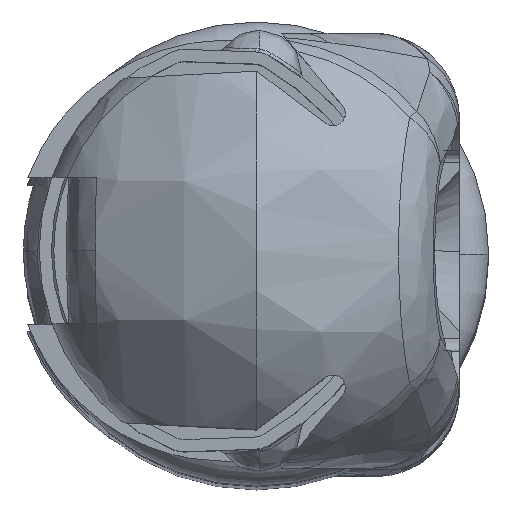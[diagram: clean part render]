
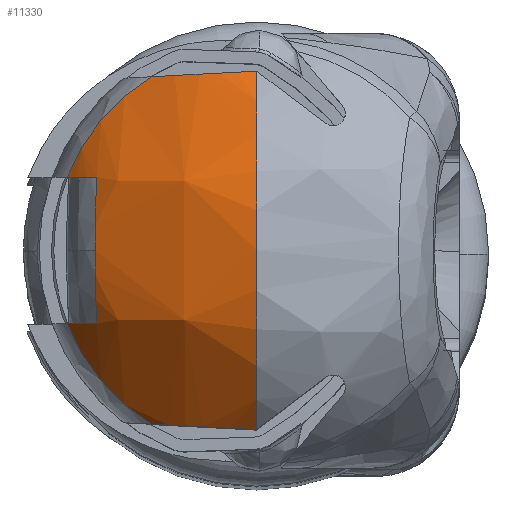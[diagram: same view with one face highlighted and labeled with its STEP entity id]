
A CAD part, top view. The second image highlights one B-rep face of the part: STEP entity #11330.
In plain terms, the highlighted free-form (B-spline) face has degree [3, 3] with [4, 4] control points.
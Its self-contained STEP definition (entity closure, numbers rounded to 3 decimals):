
#1652 = B_SPLINE_CURVE_WITH_KNOTS ( 'NONE', 3,
 ( #18228, #18227, #18226, #18225, #18224, #18223 ),
 .UNSPECIFIED., .F., .F.,
 ( 4, 2, 4 ),
 ( 0., 0.002, 0.005 ),
 .UNSPECIFIED. ) ;
#1653 = B_SPLINE_CURVE_WITH_KNOTS ( 'NONE', 3,
 ( #18219, #18218, #18217, #18216, #18215, #18214 ),
 .UNSPECIFIED., .F., .F.,
 ( 4, 2, 4 ),
 ( 0., 0.002, 0.005 ),
 .UNSPECIFIED. ) ;
#2259 = EDGE_LOOP ( 'NONE', ( #2601, #2603, #2602, #2605, #2604, #2606, #2607, #2608, #2609 ) ) ;
#2601 = ORIENTED_EDGE ( 'NONE', *, *, #11436, .F. ) ;
#2602 = ORIENTED_EDGE ( 'NONE', *, *, #3022, .T. ) ;
#2603 = ORIENTED_EDGE ( 'NONE', *, *, #3769, .F. ) ;
#2604 = ORIENTED_EDGE ( 'NONE', *, *, #3011, .T. ) ;
#2605 = ORIENTED_EDGE ( 'NONE', *, *, #3018, .T. ) ;
#2606 = ORIENTED_EDGE ( 'NONE', *, *, #11540, .T. ) ;
#2607 = ORIENTED_EDGE ( 'NONE', *, *, #3770, .F. ) ;
#2608 = ORIENTED_EDGE ( 'NONE', *, *, #10707, .F. ) ;
#2609 = ORIENTED_EDGE ( 'NONE', *, *, #3771, .F. ) ;
#3011 = EDGE_CURVE ( 'NONE', #5074, #5216, #12217, .T. ) ;
#3018 = EDGE_CURVE ( 'NONE', #5070, #5074, #12218, .T. ) ;
#3022 = EDGE_CURVE ( 'NONE', #5069, #5070, #12096, .T. ) ;
#3769 = EDGE_CURVE ( 'NONE', #5069, #5228, #1652, .T. ) ;
#3770 = EDGE_CURVE ( 'NONE', #5059, #5215, #12102, .T. ) ;
#3771 = EDGE_CURVE ( 'NONE', #5226, #5058, #1653, .T. ) ;
#5058 = VERTEX_POINT ( 'NONE', #16808 ) ;
#5059 = VERTEX_POINT ( 'NONE', #16807 ) ;
#5069 = VERTEX_POINT ( 'NONE', #16797 ) ;
#5070 = VERTEX_POINT ( 'NONE', #16796 ) ;
#5074 = VERTEX_POINT ( 'NONE', #16792 ) ;
#5215 = VERTEX_POINT ( 'NONE', #16651 ) ;
#5216 = VERTEX_POINT ( 'NONE', #16650 ) ;
#5226 = VERTEX_POINT ( 'NONE', #16640 ) ;
#5228 = VERTEX_POINT ( 'NONE', #16638 ) ;
#5900 =( BOUNDED_SURFACE ( )  B_SPLINE_SURFACE ( 3, 3, ( 
 ( #13845, #13846, #13847, #13850 ),
 ( #13851, #13852, #13854, #13855 ),
 ( #13856, #13858, #13857, #13863 ),
 ( #13767, #13752, #13749, #13751 ) ),
 .UNSPECIFIED., .F., .F., .F. ) 
 B_SPLINE_SURFACE_WITH_KNOTS ( ( 4, 4 ),
 ( 4, 4 ),
 ( 0., 1. ),
 ( 0., 1. ),
 .UNSPECIFIED. ) 
 GEOMETRIC_REPRESENTATION_ITEM ( )  RATIONAL_B_SPLINE_SURFACE ( (
 ( 1., 0.926, 0.926, 1.),
 ( 0.782, 0.724, 0.724, 0.782),
 ( 0.782, 0.724, 0.724, 0.782),
 ( 1., 0.926, 0.926, 1.) ) ) 
 REPRESENTATION_ITEM ( '' )  SURFACE ( )  );
#6169 = FACE_OUTER_BOUND ( 'NONE', #2259, .T. ) ;
#6457 = CIRCLE ( 'NONE', #6464, 8.157 ) ;
#6464 = AXIS2_PLACEMENT_3D ( 'NONE', #7341, #7342, #7343 ) ;
#7341 = CARTESIAN_POINT ( 'NONE',  ( -0.895, 0., 5.753 ) ) ;
#7342 = DIRECTION ( 'NONE',  ( -0.105, 0., -0.995 ) ) ;
#7343 = DIRECTION ( 'NONE',  ( -0.995, 0., 0.105 ) ) ;
#10707 = EDGE_CURVE ( 'NONE', #5058, #5059, #12636, .T. ) ;
#11330 = ADVANCED_FACE ( 'NONE', ( #6169 ), #5900, .T. ) ;
#11436 = EDGE_CURVE ( 'NONE', #5228, #5226, #18944, .T. ) ;
#11540 = EDGE_CURVE ( 'NONE', #5216, #5215, #6457, .T. ) ;
#12071 = AXIS2_PLACEMENT_3D ( 'NONE', #18222, #18221, #18220 ) ;
#12096 = CIRCLE ( 'NONE', #12104, 8.308 ) ;
#12102 = CIRCLE ( 'NONE', #12071, 9.539 ) ;
#12104 = AXIS2_PLACEMENT_3D ( 'NONE', #18352, #18351, #18349 ) ;
#12217 = CIRCLE ( 'NONE', #12277, 8.157 ) ;
#12218 = CIRCLE ( 'NONE', #12225, 9.539 ) ;
#12225 = AXIS2_PLACEMENT_3D ( 'NONE', #18367, #18366, #18365 ) ;
#12277 = AXIS2_PLACEMENT_3D ( 'NONE', #18398, #18397, #18396 ) ;
#12636 = CIRCLE ( 'NONE', #12651, 8.308 ) ;
#12651 = AXIS2_PLACEMENT_3D ( 'NONE', #16315, #16314, #16313 ) ;
#13749 = CARTESIAN_POINT ( 'NONE',  ( -8.224, 7.402, 2.222 ) ) ;
#13751 = CARTESIAN_POINT ( 'NONE',  ( -8.224, 7.402, 0. ) ) ;
#13752 = CARTESIAN_POINT ( 'NONE',  ( -7.204, 7.402, 4.197 ) ) ;
#13767 = CARTESIAN_POINT ( 'NONE',  ( -5.392, 7.402, 5.483 ) ) ;
#13845 = CARTESIAN_POINT ( 'NONE',  ( -5.392, -7.402, 5.483 ) ) ;
#13846 = CARTESIAN_POINT ( 'NONE',  ( -7.204, -7.402, 4.197 ) ) ;
#13847 = CARTESIAN_POINT ( 'NONE',  ( -8.224, -7.402, 2.222 ) ) ;
#13850 = CARTESIAN_POINT ( 'NONE',  ( -8.224, -7.402, 0. ) ) ;
#13851 = CARTESIAN_POINT ( 'NONE',  ( -8.097, -3.157, 9.293 ) ) ;
#13852 = CARTESIAN_POINT ( 'NONE',  ( -11.169, -3.157, 7.113 ) ) ;
#13854 = CARTESIAN_POINT ( 'NONE',  ( -12.897, -3.157, 3.767 ) ) ;
#13855 = CARTESIAN_POINT ( 'NONE',  ( -12.897, -3.157, 0. ) ) ;
#13856 = CARTESIAN_POINT ( 'NONE',  ( -8.097, 3.157, 9.293 ) ) ;
#13857 = CARTESIAN_POINT ( 'NONE',  ( -12.897, 3.157, 3.767 ) ) ;
#13858 = CARTESIAN_POINT ( 'NONE',  ( -11.169, 3.157, 7.113 ) ) ;
#13863 = CARTESIAN_POINT ( 'NONE',  ( -12.897, 3.157, 0. ) ) ;
#16313 = DIRECTION ( 'NONE',  ( 0., 0., -1. ) ) ;
#16314 = DIRECTION ( 'NONE',  ( 1., 0., 0. ) ) ;
#16315 = CARTESIAN_POINT ( 'NONE',  ( -7.066, 0., 0. ) ) ;
#16638 = CARTESIAN_POINT ( 'NONE',  ( -8.297, -7.335, 0. ) ) ;
#16640 = CARTESIAN_POINT ( 'NONE',  ( -8.297, 7.335, 0. ) ) ;
#16650 = CARTESIAN_POINT ( 'NONE',  ( -9.008, 0., 6.606 ) ) ;
#16651 = CARTESIAN_POINT ( 'NONE',  ( -8.439, 3., 6.546 ) ) ;
#16792 = CARTESIAN_POINT ( 'NONE',  ( -8.439, -3., 6.546 ) ) ;
#16796 = CARTESIAN_POINT ( 'NONE',  ( -7.066, -3., 7.747 ) ) ;
#16797 = CARTESIAN_POINT ( 'NONE',  ( -7.066, -7.11, 4.298 ) ) ;
#16807 = CARTESIAN_POINT ( 'NONE',  ( -7.066, 3., 7.747 ) ) ;
#16808 = CARTESIAN_POINT ( 'NONE',  ( -7.066, 7.11, 4.298 ) ) ;
#17550 = DIRECTION ( 'NONE',  ( 0., -1., 0. ) ) ;
#17551 = DIRECTION ( 'NONE',  ( 0., 0., -1. ) ) ;
#17552 = CARTESIAN_POINT ( 'NONE',  ( -1.5, 0., 0. ) ) ;
#18214 = CARTESIAN_POINT ( 'NONE',  ( -7.066, 7.11, 4.298 ) ) ;
#18215 = CARTESIAN_POINT ( 'NONE',  ( -7.508, 7.143, 3.671 ) ) ;
#18216 = CARTESIAN_POINT ( 'NONE',  ( -7.835, 7.178, 2.989 ) ) ;
#18217 = CARTESIAN_POINT ( 'NONE',  ( -8.256, 7.256, 1.516 ) ) ;
#18218 = CARTESIAN_POINT ( 'NONE',  ( -8.34, 7.295, 0.765 ) ) ;
#18219 = CARTESIAN_POINT ( 'NONE',  ( -8.297, 7.335, 0. ) ) ;
#18220 = DIRECTION ( 'NONE',  ( 1., 0., 0. ) ) ;
#18221 = DIRECTION ( 'NONE',  ( 0., -1., 0. ) ) ;
#18222 = CARTESIAN_POINT ( 'NONE',  ( -1.5, 3., 0. ) ) ;
#18223 = CARTESIAN_POINT ( 'NONE',  ( -8.297, -7.335, 0. ) ) ;
#18224 = CARTESIAN_POINT ( 'NONE',  ( -8.34, -7.295, 0.765 ) ) ;
#18225 = CARTESIAN_POINT ( 'NONE',  ( -8.256, -7.256, 1.517 ) ) ;
#18226 = CARTESIAN_POINT ( 'NONE',  ( -7.834, -7.178, 2.99 ) ) ;
#18227 = CARTESIAN_POINT ( 'NONE',  ( -7.508, -7.143, 3.671 ) ) ;
#18228 = CARTESIAN_POINT ( 'NONE',  ( -7.066, -7.11, 4.298 ) ) ;
#18349 = DIRECTION ( 'NONE',  ( 0., 0., -1. ) ) ;
#18351 = DIRECTION ( 'NONE',  ( -1., 0., 0. ) ) ;
#18352 = CARTESIAN_POINT ( 'NONE',  ( -7.066, 0., 0. ) ) ;
#18365 = DIRECTION ( 'NONE',  ( 1., 0., 0. ) ) ;
#18366 = DIRECTION ( 'NONE',  ( 0., -1., 0. ) ) ;
#18367 = CARTESIAN_POINT ( 'NONE',  ( -1.5, -3., 0. ) ) ;
#18396 = DIRECTION ( 'NONE',  ( -0.995, 0., 0.105 ) ) ;
#18397 = DIRECTION ( 'NONE',  ( -0.105, 0., -0.995 ) ) ;
#18398 = CARTESIAN_POINT ( 'NONE',  ( -0.895, 0., 5.753 ) ) ;
#18944 = CIRCLE ( 'NONE', #18965, 10. ) ;
#18965 = AXIS2_PLACEMENT_3D ( 'NONE', #17552, #17551, #17550 ) ;
